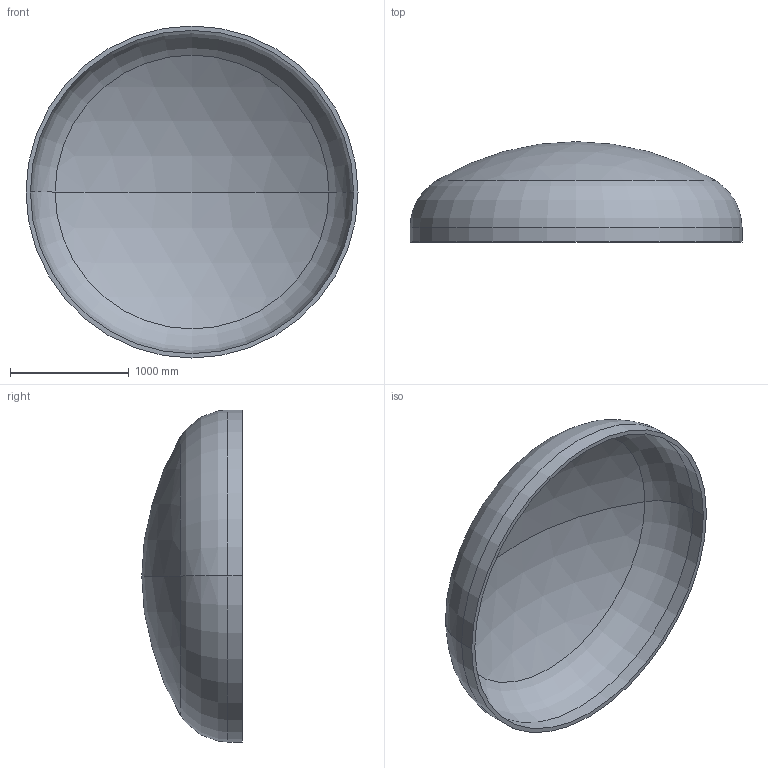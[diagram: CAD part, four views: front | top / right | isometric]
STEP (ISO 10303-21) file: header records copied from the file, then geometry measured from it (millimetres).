
FILE_DESCRIPTION (( 'STEP AP203' ), '1' );
FILE_NAME ('DIN 28013 Korbbogenform_-_Boden DIN 28013 - 2800 x 120 - I - s=37.step', '2016-07-01T16:56:20', ( '' ), ( '' ), 'SwSTEP 2.0', 'SolidWorks 2013', '' );
FILE_SCHEMA (( 'CONFIG_CONTROL_DESIGN' ));
Length unit declared in the file: millimetre
Products named in the file (1): DIN 28013 Korbbogenform_-_Boden DIN 28013 - 2800 x 120 - I - s=37
Bounding box: 2800 x 846 x 2800 mm (x, y, z)
Volume: 348446231.8 mm3; surface area: 19158960.2 mm2
Topology: 1 solids, 1 shells, 13 faces, 24 edges, 14 vertices
Faces by surface type: torus 4, cylinder 4, sphere 4, plane 1
Entity records: 407 total; most frequent: DIRECTION 72, CARTESIAN_POINT 52, ORIENTED_EDGE 48, AXIS2_PLACEMENT_3D 34, EDGE_CURVE 24, CIRCLE 20, EDGE_LOOP 14, VERTEX_POINT 14
